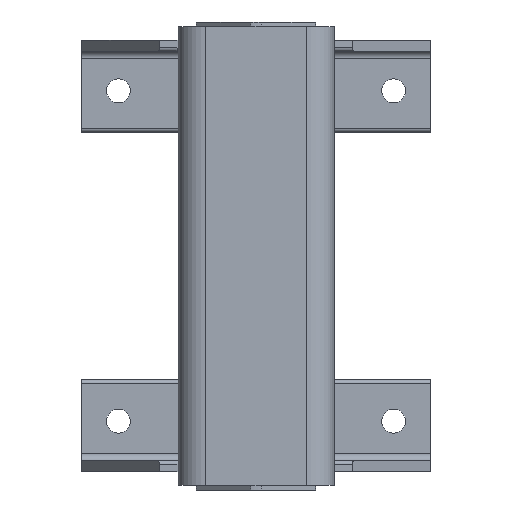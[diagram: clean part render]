
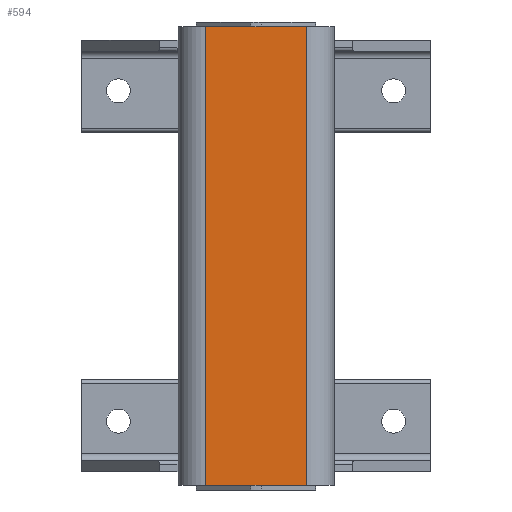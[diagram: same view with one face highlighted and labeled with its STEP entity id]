
A CAD part, left-side view. The second image highlights one B-rep face of the part: STEP entity #594.
In plain terms, the highlighted planar face has unit normal (-1, 0, 0).
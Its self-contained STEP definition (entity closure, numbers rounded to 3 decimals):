
#344=CARTESIAN_POINT('',(-85.,55.,500.0));
#345=VERTEX_POINT('',#344);
#363=CARTESIAN_POINT('',(-85.,55.,0.0));
#364=VERTEX_POINT('',#363);
#372=CARTESIAN_POINT('',(-85.,55.,0.0));
#373=DIRECTION('',(0.0,0.0,1.0));
#374=VECTOR('',#373,500.0);
#375=LINE('',#372,#374);
#376=EDGE_CURVE('',#364,#345,#375,.T.);
#545=CARTESIAN_POINT('',(-85.,-55.,500.0));
#546=VERTEX_POINT('',#545);
#554=CARTESIAN_POINT('',(-85.,-55.,0.0));
#555=VERTEX_POINT('',#554);
#556=CARTESIAN_POINT('',(-85.,-55.,0.0));
#557=DIRECTION('',(0.0,0.0,1.0));
#558=VECTOR('',#557,500.0);
#559=LINE('',#556,#558);
#560=EDGE_CURVE('',#555,#546,#559,.T.);
#573=CARTESIAN_POINT('',(-85.,-55.,0.0));
#574=DIRECTION('',(-1.0,0.0,0.0));
#575=DIRECTION('',(0.0,0.0,1.0));
#576=AXIS2_PLACEMENT_3D('',#573,#574,#575);
#577=PLANE('',#576);
#578=CARTESIAN_POINT('',(-85.,-55.,500.0));
#579=DIRECTION('',(0.0,1.0,0.0));
#580=VECTOR('',#579,110.);
#581=LINE('',#578,#580);
#582=EDGE_CURVE('',#546,#345,#581,.T.);
#583=ORIENTED_EDGE('',*,*,#582,.T.);
#584=ORIENTED_EDGE('',*,*,#376,.F.);
#585=CARTESIAN_POINT('',(-85.,55.,0.0));
#586=DIRECTION('',(0.0,-1.0,0.0));
#587=VECTOR('',#586,110.);
#588=LINE('',#585,#587);
#589=EDGE_CURVE('',#364,#555,#588,.T.);
#590=ORIENTED_EDGE('',*,*,#589,.T.);
#591=ORIENTED_EDGE('',*,*,#560,.T.);
#592=EDGE_LOOP('',(#583,#584,#590,#591));
#593=FACE_OUTER_BOUND('',#592,.T.);
#594=ADVANCED_FACE('',(#593),#577,.T.);
